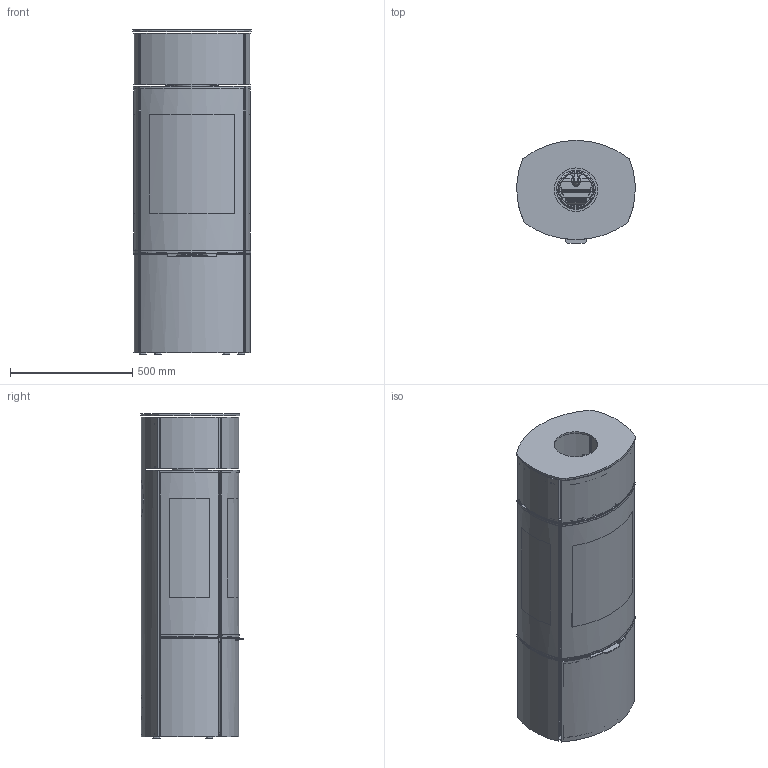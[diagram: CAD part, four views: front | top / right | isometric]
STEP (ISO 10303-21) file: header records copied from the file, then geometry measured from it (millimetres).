
FILE_DESCRIPTION(/* description */ (''),/* implementation_level */ '2;1');
FILE_NAME(/* name */ '14-0511 Caro 130 with sideglass.stp',/* time_stamp */ '2023-11-06T14:15:31+01:00',/* author */ ('ksj'),/* organization */ (''),/* preprocessor_version */ 'ST-DEVELOPER v19.2',/* originating_system */ 'Autodesk Inventor 2023',/* authorisation */ '');
FILE_SCHEMA (('AUTOMOTIVE_DESIGN { 1 0 10303 214 3 1 1 }'));
Products named in the file (1): 14-0511 Caro 130 with sideglass
Bounding box: 484.89 x 421.74 x 1329 mm (x, y, z)
Volume: 18024216.7 mm3; surface area: 9183368.9 mm2
Topology: 69 solids, 69 shells, 4473 faces, 12198 edges, 7819 vertices
Faces by surface type: plane 2829, cylinder 1520, bspline 98, torus 18, cone 6, sphere 2
Full cylindrical faces by diameter (mm): 10 x4, 16.1 x2, 20 x2, 25 x4, 160 x1, 178 x1, 200 x1
Entity records: 155195 total; most frequent: CARTESIAN_POINT 34999, ORIENTED_EDGE 24380, DIRECTION 23884, EDGE_CURVE 12190, LINE 8390, VECTOR 8390, VERTEX_POINT 7815, AXIS2_PLACEMENT_3D 7747
